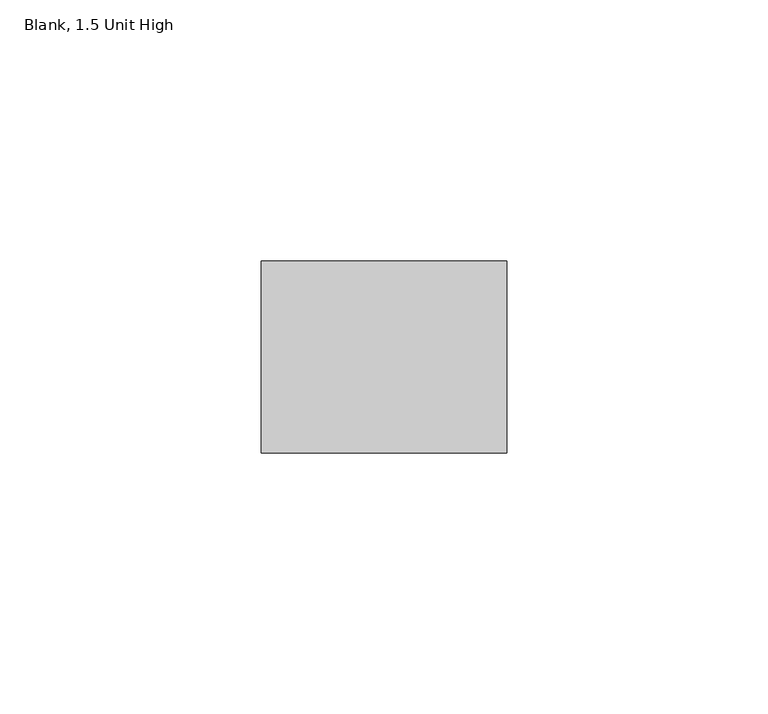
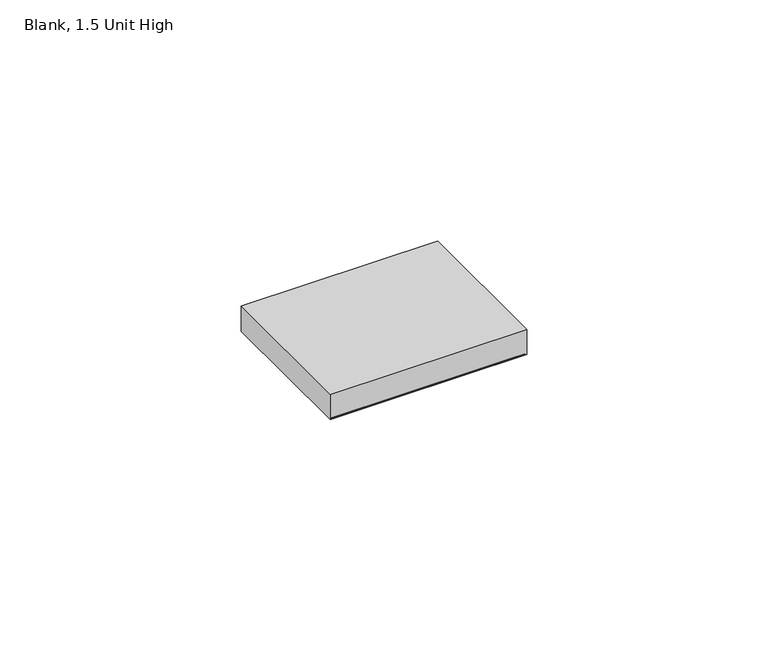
"""IFC4 building model written with IfcOpenShell, lengths in millimetres: electric appliance geometry, Data_Device-Work_Area-Leviton-MOS-Adapter-QuickPort : Blank, 1.5 Unit High."""

from ifc_helpers import new_model, si_unit, frame, origin, place, context, project, spatial, polyline, outline, extrude, source, transform, mapped, element, save


def blank_1_5_unit_high_24d2255b(model_context):
    return source(origin(), model_context, "Body", "SweptSolid", [
        extrude(outline(polyline([(0.2159, 20.1295), (0.2159, -16.0909), (-46.2661, -16.0909), (-46.2661, 20.1295), (0.2159, 20.1295)])), frame((0.0, 0.0, -6.35), z_axis=(0.0, 0.0, 1.0), x_axis=(1.0, 0.0, 0.0)), (0.0, 0.0, 1.0), 0.254),
        extrude(outline(polyline([(0.4699, 20.3835), (0.4699, -16.3449), (-46.5201, -16.3449), (-46.5201, 20.3835), (0.4699, 20.3835)])), frame((0.0, 0.0, -6.096), z_axis=(0.0, 0.0, 1.0), x_axis=(1.0, 0.0, 0.0)), (0.0, 0.0, 1.0), 6.35),
    ])


if __name__ == "__main__":
    model = new_model("IFC4")
    model_context = context("Model", 3, world=origin())
    ifc_project = project(units=[si_unit("LENGTHUNIT", "METRE", prefix="MILLI")], contexts=[model_context])
    site = spatial("IfcSite", under=ifc_project)
    building = spatial("IfcBuilding", under=site)
    placement = place(None, origin())
    blank_1_5_unit_high_shape = blank_1_5_unit_high_24d2255b(model_context)
    element("IfcElectricAppliance", 1, ObjectType="Data_Device-Work_Area-Leviton-MOS-Adapter-QuickPort : Blank, 1.5 Unit High", at=placement, inside=building, context=model_context, shape_type="MappedRepresentation", body=[
        mapped(blank_1_5_unit_high_shape, transform((0.0, 0.0, 0.0), x_axis=(1.0, 0.0, 0.0), y_axis=(0.0, 1.0, 0.0), z_axis=(0.0, 0.0, 1.0))),
    ])
    save(model, "model.ifc")
